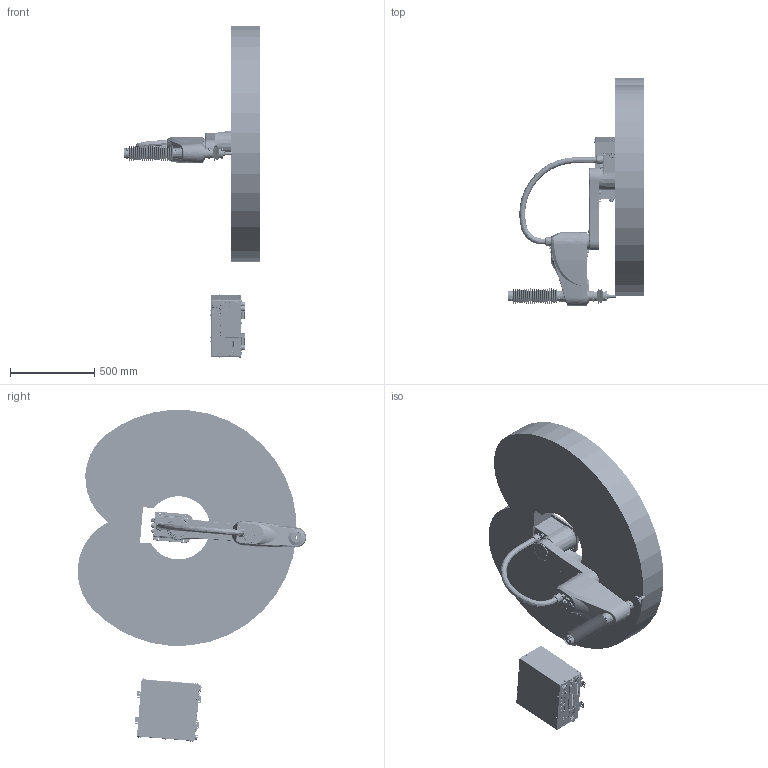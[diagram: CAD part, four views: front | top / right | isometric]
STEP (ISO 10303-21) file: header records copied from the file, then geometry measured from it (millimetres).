
FILE_DESCRIPTION (( 'STEP AP214' ), '1' );
FILE_NAME ('TRH005-700-170-C.STEP', '2024-06-07T06:13:07', ( '' ), ( '' ), 'SwSTEP 2.0', 'SolidWorks 2018', '' );
FILE_SCHEMA (( 'AUTOMOTIVE_DESIGN' ));
Length unit declared in the file: millimetre
Products named in the file (8): TRH005-700-170-C; 葩璃 1 菁釱^TRH005-700-170-C; 葩璃 3 苤旋^TRH005-700-170-C; 葩璃 5 疏恇奪^TRH005-700-170-C; 葩璃 2 湮旋^TRH005-700-170-C; 葩璃 7 堍雄毓峓^TRH005-700-170-C; 葩璃 6 諷秶嶄^TRH005-700-170-C; 葩璃 4 佪裝^TRH005-700-170-C
Assembly tree (7 placements, depth 2):
  TRH005-700-170-C
    葩璃 1 菁釱^TRH005-700-170-C
    葩璃 2 湮旋^TRH005-700-170-C
    葩璃 3 苤旋^TRH005-700-170-C
    葩璃 4 佪裝^TRH005-700-170-C
    葩璃 5 疏恇奪^TRH005-700-170-C
    葩璃 6 諷秶嶄^TRH005-700-170-C
    葩璃 7 堍雄毓峓^TRH005-700-170-C
Bounding box: 802 x 1353.38 x 1967.45 mm (x, y, z)
Volume: 225298634.1 mm3; surface area: 6178166.1 mm2
Topology: 2 solids, 530 shells, 7056 faces, 32426 edges, 25390 vertices
Faces by surface type: plane 3844, cylinder 1962, cone 697, bspline 327, torus 198, sphere 28
Entity records: 462101 total; most frequent: CARTESIAN_POINT 139692, DIRECTION 48974, ORIENTED_EDGE 45591, EDGE_CURVE 32335, VERTEX_POINT 25390, LINE 20280, VECTOR 20280, AXIS2_PLACEMENT_3D 14347
